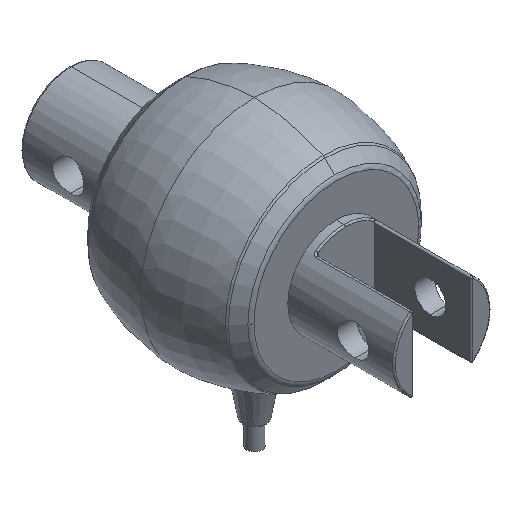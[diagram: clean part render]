
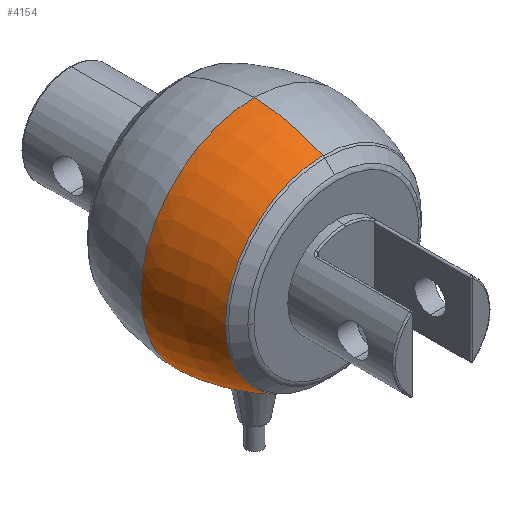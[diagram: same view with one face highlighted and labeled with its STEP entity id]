
A CAD part, isometric view. The second image highlights one B-rep face of the part: STEP entity #4154.
In plain terms, the highlighted toroidal (fillet/blend) face has major radius 22.378 mm and minor radius 59.914 mm.
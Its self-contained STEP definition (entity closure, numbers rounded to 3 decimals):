
#27 = ORIENTED_EDGE ( 'NONE', *, *, #4180, .F. ) ;
#95 = VERTEX_POINT ( 'NONE', #3286 ) ;
#134 = CARTESIAN_POINT ( 'NONE',  ( 0., 2.091, 0. ) ) ;
#218 = VERTEX_POINT ( 'NONE', #3302 ) ;
#223 = CARTESIAN_POINT ( 'NONE',  ( -5.794, -3.621, -36.812 ) ) ;
#235 = CARTESIAN_POINT ( 'NONE',  ( -4.372, -5.253, -36.827 ) ) ;
#284 = DIRECTION ( 'NONE',  ( -1., 0., 0. ) ) ;
#364 = ORIENTED_EDGE ( 'NONE', *, *, #960, .T. ) ;
#428 = ORIENTED_EDGE ( 'NONE', *, *, #1773, .F. ) ;
#639 = CARTESIAN_POINT ( 'NONE',  ( -6.809, -0.326, -36.864 ) ) ;
#702 = ORIENTED_EDGE ( 'NONE', *, *, #2886, .T. ) ;
#712 = VERTEX_POINT ( 'NONE', #639 ) ;
#754 = DIRECTION ( 'NONE',  ( 0., 0., -1. ) ) ;
#770 = CARTESIAN_POINT ( 'NONE',  ( -3.86, -5.645, -36.834 ) ) ;
#802 = DIRECTION ( 'NONE',  ( 0., 0., 1. ) ) ;
#857 = AXIS2_PLACEMENT_3D ( 'NONE', #1045, #3009, #754 ) ;
#914 = AXIS2_PLACEMENT_3D ( 'NONE', #3545, #1262, #284 ) ;
#960 = EDGE_CURVE ( 'NONE', #712, #2987, #2015, .T. ) ;
#1008 = CARTESIAN_POINT ( 'NONE',  ( -6.818, 0., -36.875 ) ) ;
#1045 = CARTESIAN_POINT ( 'NONE',  ( 0., 2.091, 22.377 ) ) ;
#1106 = EDGE_CURVE ( 'NONE', #3955, #95, #3872, .T. ) ;
#1125 = B_SPLINE_CURVE_WITH_KNOTS ( 'NONE', 3,
 ( #1008, #3238, #2274, #1269 ),
 .UNSPECIFIED., .F., .F.,
 ( 4, 4 ),
 ( 0., 1. ),
 .UNSPECIFIED. ) ;
#1262 = DIRECTION ( 'NONE',  ( 0., 1., 0. ) ) ;
#1269 = CARTESIAN_POINT ( 'NONE',  ( -6.809, -0.326, -36.864 ) ) ;
#1288 = CARTESIAN_POINT ( 'NONE',  ( -2.926, -6.199, -36.847 ) ) ;
#1408 = CARTESIAN_POINT ( 'NONE',  ( -4.034, -5.52, -36.831 ) ) ;
#1564 = CARTESIAN_POINT ( 'NONE',  ( 0., -22.611, -32.207 ) ) ;
#1585 = CARTESIAN_POINT ( 'NONE',  ( -0.862, -6.809, -36.864 ) ) ;
#1603 = VERTEX_POINT ( 'NONE', #3914 ) ;
#1610 = CARTESIAN_POINT ( 'NONE',  ( 0., -6.851, -36.865 ) ) ;
#1627 = CARTESIAN_POINT ( 'NONE',  ( -2.124, -6.523, -36.855 ) ) ;
#1716 = AXIS2_PLACEMENT_3D ( 'NONE', #134, #2391, #2726 ) ;
#1773 = EDGE_CURVE ( 'NONE', #3955, #2987, #4153, .T. ) ;
#1794 = CARTESIAN_POINT ( 'NONE',  ( 0., 0., 0. ) ) ;
#1822 = AXIS2_PLACEMENT_3D ( 'NONE', #3290, #3309, #1982 ) ;
#1832 = CARTESIAN_POINT ( 'NONE',  ( -6.724, -1.19, -36.84 ) ) ;
#1887 = ORIENTED_EDGE ( 'NONE', *, *, #1106, .T. ) ;
#1925 = CARTESIAN_POINT ( 'NONE',  ( -0.433, -6.851, -36.865 ) ) ;
#1942 = CIRCLE ( 'NONE', #2426, 37.5 ) ;
#1982 = DIRECTION ( 'NONE',  ( 0., 0., 1. ) ) ;
#2015 = B_SPLINE_CURVE_WITH_KNOTS ( 'NONE', 3,
 ( #3479, #2170, #1832, #4123, #2160, #2480, #223, #2820, #2491, #3808, #235, #1408, #770, #3239, #1288, #1627, #3226, #1585, #1925, #4223 ),
 .UNSPECIFIED., .F., .F.,
 ( 4, 2, 2, 2, 2, 2, 2, 2, 2, 4 ),
 ( 0., 0.125, 0.25, 0.375, 0.5, 0.563, 0.625, 0.75, 0.875, 1. ),
 .UNSPECIFIED. ) ;
#2160 = CARTESIAN_POINT ( 'NONE',  ( -6.372, -2.453, -36.818 ) ) ;
#2170 = CARTESIAN_POINT ( 'NONE',  ( -6.786, -0.762, -36.85 ) ) ;
#2274 = CARTESIAN_POINT ( 'NONE',  ( -6.815, -0.217, -36.868 ) ) ;
#2285 = EDGE_CURVE ( 'NONE', #95, #1603, #4112, .T. ) ;
#2303 = TOROIDAL_SURFACE ( 'NONE', #1716, -22.377, 59.914 ) ;
#2391 = DIRECTION ( 'NONE',  ( 0., 1., 0. ) ) ;
#2426 = AXIS2_PLACEMENT_3D ( 'NONE', #1794, #3454, #802 ) ;
#2480 = CARTESIAN_POINT ( 'NONE',  ( -6.01, -3.246, -36.813 ) ) ;
#2491 = CARTESIAN_POINT ( 'NONE',  ( -5.005, -4.661, -36.818 ) ) ;
#2568 = EDGE_LOOP ( 'NONE', ( #428, #1887, #3796, #27, #702, #364 ) ) ;
#2726 = DIRECTION ( 'NONE',  ( 0., 0., 1. ) ) ;
#2820 = CARTESIAN_POINT ( 'NONE',  ( -5.292, -4.328, -36.815 ) ) ;
#2886 = EDGE_CURVE ( 'NONE', #218, #712, #1125, .T. ) ;
#2987 = VERTEX_POINT ( 'NONE', #1610 ) ;
#3009 = DIRECTION ( 'NONE',  ( 1., 0., 0. ) ) ;
#3172 = FACE_OUTER_BOUND ( 'NONE', #2568, .T. ) ;
#3226 = CARTESIAN_POINT ( 'NONE',  ( -1.712, -6.644, -36.859 ) ) ;
#3238 = CARTESIAN_POINT ( 'NONE',  ( -6.818, -0.109, -36.871 ) ) ;
#3239 = CARTESIAN_POINT ( 'NONE',  ( -3.312, -6., -36.841 ) ) ;
#3286 = CARTESIAN_POINT ( 'NONE',  ( 0., -22.611, 32.207 ) ) ;
#3290 = CARTESIAN_POINT ( 'NONE',  ( 0., 2.091, -22.377 ) ) ;
#3302 = CARTESIAN_POINT ( 'NONE',  ( -6.818, 0., -36.875 ) ) ;
#3309 = DIRECTION ( 'NONE',  ( -1., 0., 0. ) ) ;
#3454 = DIRECTION ( 'NONE',  ( 0., 1., 0. ) ) ;
#3479 = CARTESIAN_POINT ( 'NONE',  ( -6.809, -0.326, -36.864 ) ) ;
#3545 = CARTESIAN_POINT ( 'NONE',  ( 0., -22.611, 0. ) ) ;
#3796 = ORIENTED_EDGE ( 'NONE', *, *, #2285, .T. ) ;
#3808 = CARTESIAN_POINT ( 'NONE',  ( -4.535, -5.111, -36.824 ) ) ;
#3872 = CIRCLE ( 'NONE', #914, 32.207 ) ;
#3914 = CARTESIAN_POINT ( 'NONE',  ( 0., 0., 37.5 ) ) ;
#3955 = VERTEX_POINT ( 'NONE', #1564 ) ;
#4112 = CIRCLE ( 'NONE', #1822, 59.914 ) ;
#4123 = CARTESIAN_POINT ( 'NONE',  ( -6.515, -2.041, -36.824 ) ) ;
#4153 = CIRCLE ( 'NONE', #857, 59.914 ) ;
#4154 = ADVANCED_FACE ( 'NONE', ( #3172 ), #2303, .T. ) ;
#4180 = EDGE_CURVE ( 'NONE', #218, #1603, #1942, .T. ) ;
#4223 = CARTESIAN_POINT ( 'NONE',  ( 0., -6.851, -36.865 ) ) ;
